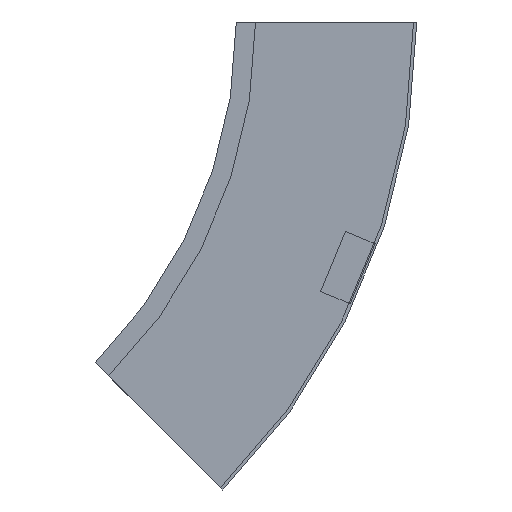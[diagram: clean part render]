
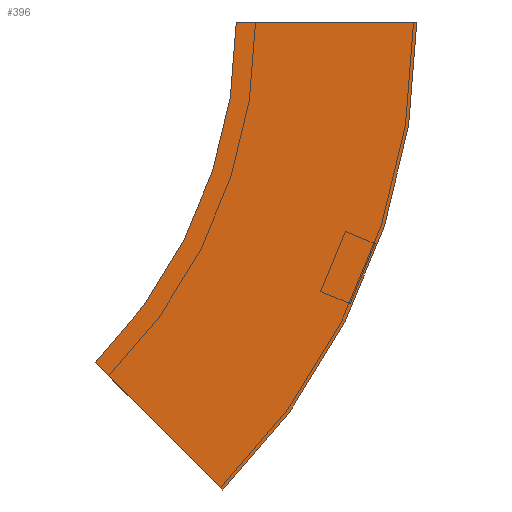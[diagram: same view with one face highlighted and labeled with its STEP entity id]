
A CAD part, left-side view. The second image highlights one B-rep face of the part: STEP entity #396.
In plain terms, the highlighted planar face has unit normal (-1, 0, 0) as drawn and (1, 0, 0) by its records, which use the part's own axes.
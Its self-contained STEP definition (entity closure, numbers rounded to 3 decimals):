
#16 = CARTESIAN_POINT ( 'NONE',  ( 0., -112.5, 0. ) ) ;
#19 = DIRECTION ( 'NONE',  ( 0., -1., 0. ) ) ;
#61 = DIRECTION ( 'NONE',  ( -1., 0., 0. ) ) ;
#64 = CARTESIAN_POINT ( 'NONE',  ( 0., 300., 0. ) ) ;
#84 = VERTEX_POINT ( 'NONE', #89 ) ;
#89 = CARTESIAN_POINT ( 'NONE',  ( 0., 0., 0. ) ) ;
#107 = CARTESIAN_POINT ( 'NONE',  ( 0., 300., 0. ) ) ;
#110 = ORIENTED_EDGE ( 'NONE', *, *, #456, .T. ) ;
#117 = AXIS2_PLACEMENT_3D ( 'NONE', #274, #61, #229 ) ;
#118 = FACE_OUTER_BOUND ( 'NONE', #425, .T. ) ;
#148 = ORIENTED_EDGE ( 'NONE', *, *, #332, .T. ) ;
#168 = CARTESIAN_POINT ( 'NONE',  ( 0., 8.318, -291.682 ) ) ;
#181 = ORIENTED_EDGE ( 'NONE', *, *, #464, .F. ) ;
#211 = EDGE_CURVE ( 'NONE', #527, #84, #397, .T. ) ;
#229 = DIRECTION ( 'NONE',  ( 0., 0., 1. ) ) ;
#237 = VERTEX_POINT ( 'NONE', #168 ) ;
#245 = CARTESIAN_POINT ( 'NONE',  ( 0., 8.318, -291.682 ) ) ;
#259 = CARTESIAN_POINT ( 'NONE',  ( 0., -112.5, 0. ) ) ;
#274 = CARTESIAN_POINT ( 'NONE',  ( 0., -112.5, 0. ) ) ;
#279 = PLANE ( 'NONE',  #117 ) ;
#313 = DIRECTION ( 'NONE',  ( 0., -1., 0. ) ) ;
#332 = EDGE_CURVE ( 'NONE', #527, #237, #348, .T. ) ;
#342 = CARTESIAN_POINT ( 'NONE',  ( 0., 87.868, -212.132 ) ) ;
#348 = CIRCLE ( 'NONE', #420, 412.5 ) ;
#391 = AXIS2_PLACEMENT_3D ( 'NONE', #107, #557, #313 ) ;
#396 = ADVANCED_FACE ( 'NONE', ( #118 ), #279, .F. ) ;
#397 = LINE ( 'NONE', #16, #524 ) ;
#404 = ORIENTED_EDGE ( 'NONE', *, *, #211, .F. ) ;
#409 = VECTOR ( 'NONE', #416, 1000. ) ;
#416 = DIRECTION ( 'NONE',  ( 0., 0.707, 0.707 ) ) ;
#420 = AXIS2_PLACEMENT_3D ( 'NONE', #64, #501, #19 ) ;
#425 = EDGE_LOOP ( 'NONE', ( #181, #404, #148, #110 ) ) ;
#430 = CIRCLE ( 'NONE', #391, 300. ) ;
#456 = EDGE_CURVE ( 'NONE', #237, #521, #472, .T. ) ;
#464 = EDGE_CURVE ( 'NONE', #84, #521, #430, .T. ) ;
#472 = LINE ( 'NONE', #245, #409 ) ;
#501 = DIRECTION ( 'NONE',  ( 1., 0., 0. ) ) ;
#521 = VERTEX_POINT ( 'NONE', #342 ) ;
#524 = VECTOR ( 'NONE', #540, 1000. ) ;
#527 = VERTEX_POINT ( 'NONE', #259 ) ;
#540 = DIRECTION ( 'NONE',  ( 0., 1., 0. ) ) ;
#557 = DIRECTION ( 'NONE',  ( 1., 0., 0. ) ) ;
